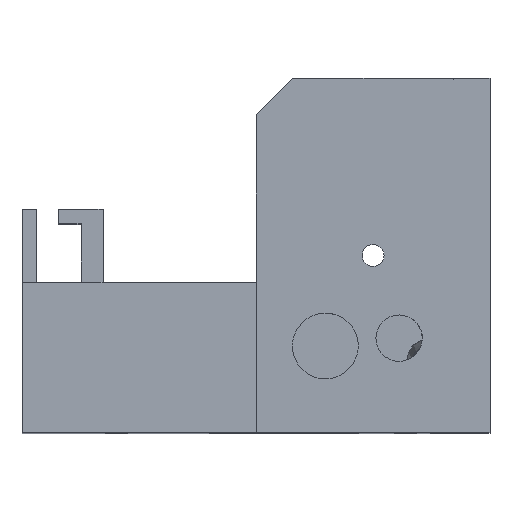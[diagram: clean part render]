
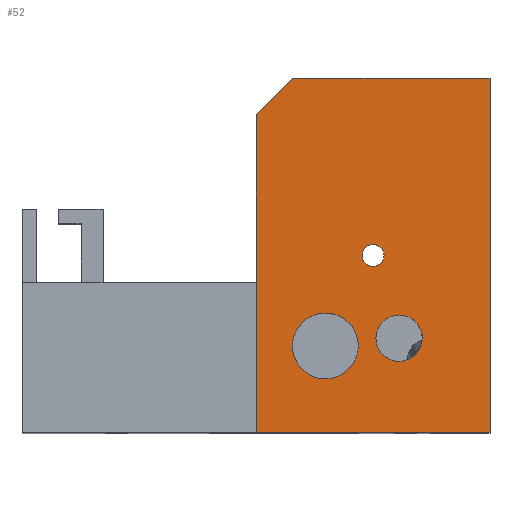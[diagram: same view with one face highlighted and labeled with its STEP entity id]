
A CAD part, top view. The second image highlights one B-rep face of the part: STEP entity #52.
In plain terms, the highlighted planar face has unit normal (0, 0, 1).
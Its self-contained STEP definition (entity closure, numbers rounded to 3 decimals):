
#18=FACE_BOUND('',#188,.T.);
#19=FACE_BOUND('',#189,.T.);
#20=FACE_BOUND('',#190,.T.);
#52=ADVANCED_FACE('',(#118,#18,#19,#20),#1171,.T.);
#118=FACE_OUTER_BOUND('',#187,.T.);
#187=EDGE_LOOP('',(#322,#323,#324,#325,#326,#327));
#188=EDGE_LOOP('',(#328,#329));
#189=EDGE_LOOP('',(#330,#331));
#190=EDGE_LOOP('',(#332,#333));
#322=ORIENTED_EDGE('',*,*,#709,.F.);
#323=ORIENTED_EDGE('',*,*,#659,.F.);
#324=ORIENTED_EDGE('',*,*,#681,.F.);
#325=ORIENTED_EDGE('',*,*,#661,.T.);
#326=ORIENTED_EDGE('',*,*,#703,.T.);
#327=ORIENTED_EDGE('',*,*,#706,.F.);
#328=ORIENTED_EDGE('',*,*,#791,.F.);
#329=ORIENTED_EDGE('',*,*,#723,.F.);
#330=ORIENTED_EDGE('',*,*,#803,.F.);
#331=ORIENTED_EDGE('',*,*,#746,.F.);
#332=ORIENTED_EDGE('',*,*,#806,.F.);
#333=ORIENTED_EDGE('',*,*,#760,.F.);
#659=EDGE_CURVE('',#1024,#1052,#909,.T.);
#661=EDGE_CURVE('',#1026,#1025,#911,.T.);
#681=EDGE_CURVE('',#1026,#1024,#925,.T.);
#703=EDGE_CURVE('',#1025,#1050,#944,.T.);
#706=EDGE_CURVE('',#1054,#1050,#947,.T.);
#709=EDGE_CURVE('',#1052,#1054,#950,.T.);
#723=EDGE_CURVE('',#1064,#1103,#829,.T.);
#746=EDGE_CURVE('',#1079,#1111,#835,.T.);
#760=EDGE_CURVE('',#1084,#1112,#838,.T.);
#791=EDGE_CURVE('',#1103,#1064,#860,.T.);
#803=EDGE_CURVE('',#1111,#1079,#868,.T.);
#806=EDGE_CURVE('',#1112,#1084,#871,.T.);
#829=(
BOUNDED_CURVE()
B_SPLINE_CURVE(2,(#3309,#3310,#3311,#3312,#3313),.UNSPECIFIED.,.F.,.F.)
B_SPLINE_CURVE_WITH_KNOTS((3,2,3),(0.,2.356,4.712),
 .UNSPECIFIED.)
CURVE()
GEOMETRIC_REPRESENTATION_ITEM()
RATIONAL_B_SPLINE_CURVE((1.,0.707,1.,0.707,1.))
REPRESENTATION_ITEM('')
);
#835=(
BOUNDED_CURVE()
B_SPLINE_CURVE(2,(#3460,#3461,#3462,#3463,#3464),.UNSPECIFIED.,.F.,.F.)
B_SPLINE_CURVE_WITH_KNOTS((3,2,3),(0.,4.982,9.963),
 .UNSPECIFIED.)
CURVE()
GEOMETRIC_REPRESENTATION_ITEM()
RATIONAL_B_SPLINE_CURVE((1.,0.707,1.,0.707,1.))
REPRESENTATION_ITEM('')
);
#838=(
BOUNDED_CURVE()
B_SPLINE_CURVE(2,(#3518,#3519,#3520,#3521,#3522),.UNSPECIFIED.,.F.,.F.)
B_SPLINE_CURVE_WITH_KNOTS((3,2,3),(0.,7.854,15.708),
 .UNSPECIFIED.)
CURVE()
GEOMETRIC_REPRESENTATION_ITEM()
RATIONAL_B_SPLINE_CURVE((1.,0.707,1.,0.707,1.))
REPRESENTATION_ITEM('')
);
#860=(
BOUNDED_CURVE()
B_SPLINE_CURVE(2,(#3643,#3644,#3645,#3646,#3647),.UNSPECIFIED.,.F.,.F.)
B_SPLINE_CURVE_WITH_KNOTS((3,2,3),(4.712,7.069,9.425),
 .UNSPECIFIED.)
CURVE()
GEOMETRIC_REPRESENTATION_ITEM()
RATIONAL_B_SPLINE_CURVE((1.,0.707,1.,0.707,1.))
REPRESENTATION_ITEM('')
);
#868=(
BOUNDED_CURVE()
B_SPLINE_CURVE(2,(#3755,#3756,#3757,#3758,#3759),.UNSPECIFIED.,.F.,.F.)
B_SPLINE_CURVE_WITH_KNOTS((3,2,3),(9.963,14.945,19.926),
 .UNSPECIFIED.)
CURVE()
GEOMETRIC_REPRESENTATION_ITEM()
RATIONAL_B_SPLINE_CURVE((1.,0.707,1.,0.707,1.))
REPRESENTATION_ITEM('')
);
#871=(
BOUNDED_CURVE()
B_SPLINE_CURVE(2,(#3767,#3768,#3769,#3770,#3771),.UNSPECIFIED.,.F.,.F.)
B_SPLINE_CURVE_WITH_KNOTS((3,2,3),(15.708,23.562,31.416),
 .UNSPECIFIED.)
CURVE()
GEOMETRIC_REPRESENTATION_ITEM()
RATIONAL_B_SPLINE_CURVE((1.,0.707,1.,0.707,1.))
REPRESENTATION_ITEM('')
);
#909=B_SPLINE_CURVE_WITH_KNOTS('',1,(#3128,#3129),.UNSPECIFIED.,.F.,.F.,
(2,2),(-160.738,-117.357),.UNSPECIFIED.);
#911=B_SPLINE_CURVE_WITH_KNOTS('',1,(#3132,#3133),.UNSPECIFIED.,.F.,.F.,
(2,2),(31.988,80.369),.UNSPECIFIED.);
#925=B_SPLINE_CURVE_WITH_KNOTS('',1,(#3186,#3187,#3188),.UNSPECIFIED.,.F.,
 .F.,(2,1,2),(-31.988,-26.988,0.),.UNSPECIFIED.);
#944=B_SPLINE_CURVE_WITH_KNOTS('',1,(#3242,#3243),.UNSPECIFIED.,.F.,.F.,
(2,2),(80.369,85.369),.UNSPECIFIED.);
#947=B_SPLINE_CURVE_WITH_KNOTS('',1,(#3251,#3252),.UNSPECIFIED.,.F.,.F.,
(2,2),(-107.357,-85.369),.UNSPECIFIED.);
#950=B_SPLINE_CURVE_WITH_KNOTS('',1,(#3257,#3258),.UNSPECIFIED.,.F.,.F.,
(2,2),(0.,7.071),.UNSPECIFIED.);
#1024=VERTEX_POINT('',#2964);
#1025=VERTEX_POINT('',#2965);
#1026=VERTEX_POINT('',#2966);
#1050=VERTEX_POINT('',#2990);
#1052=VERTEX_POINT('',#2992);
#1054=VERTEX_POINT('',#2994);
#1064=VERTEX_POINT('',#3004);
#1079=VERTEX_POINT('',#3019);
#1084=VERTEX_POINT('',#3024);
#1103=VERTEX_POINT('',#3043);
#1111=VERTEX_POINT('',#3051);
#1112=VERTEX_POINT('',#3052);
#1171=PLANE('',#1232);
#1232=AXIS2_PLACEMENT_3D('',#2926,#1276,$);
#1276=DIRECTION('',(0.,0.,1.));
#2926=CARTESIAN_POINT('',(-122.,-135.,479.787));
#2964=CARTESIAN_POINT('',(-153.988,-135.,479.787));
#2965=CARTESIAN_POINT('',(-122.,-86.619,479.787));
#2966=CARTESIAN_POINT('',(-122.,-135.,479.787));
#2990=CARTESIAN_POINT('',(-127.,-86.619,479.787));
#2992=CARTESIAN_POINT('',(-153.988,-91.619,479.787));
#2994=CARTESIAN_POINT('',(-148.988,-86.619,479.787));
#3004=CARTESIAN_POINT('',(-136.495,-110.833,479.787));
#3019=CARTESIAN_POINT('',(-131.478,-123.294,479.787));
#3024=CARTESIAN_POINT('',(-140.016,-123.216,479.787));
#3043=CARTESIAN_POINT('',(-139.495,-110.833,479.787));
#3051=CARTESIAN_POINT('',(-137.388,-120.992,479.787));
#3052=CARTESIAN_POINT('',(-149.016,-123.216,479.787));
#3128=CARTESIAN_POINT('',(-153.988,-135.,479.787));
#3129=CARTESIAN_POINT('',(-153.988,-91.619,479.787));
#3132=CARTESIAN_POINT('',(-122.,-135.,479.787));
#3133=CARTESIAN_POINT('',(-122.,-86.619,479.787));
#3186=CARTESIAN_POINT('',(-122.,-135.,479.787));
#3187=CARTESIAN_POINT('',(-127.,-135.,479.787));
#3188=CARTESIAN_POINT('',(-153.988,-135.,479.787));
#3242=CARTESIAN_POINT('',(-122.,-86.619,479.787));
#3243=CARTESIAN_POINT('',(-127.,-86.619,479.787));
#3251=CARTESIAN_POINT('',(-148.988,-86.619,479.787));
#3252=CARTESIAN_POINT('',(-127.,-86.619,479.787));
#3257=CARTESIAN_POINT('',(-153.988,-91.619,479.787));
#3258=CARTESIAN_POINT('',(-148.988,-86.619,479.787));
#3309=CARTESIAN_POINT('',(-136.495,-110.833,479.787));
#3310=CARTESIAN_POINT('',(-136.495,-109.333,479.787));
#3311=CARTESIAN_POINT('',(-137.995,-109.333,479.787));
#3312=CARTESIAN_POINT('',(-139.495,-109.333,479.787));
#3313=CARTESIAN_POINT('',(-139.495,-110.833,479.787));
#3460=CARTESIAN_POINT('',(-131.478,-123.294,479.787));
#3461=CARTESIAN_POINT('',(-130.327,-120.339,479.787));
#3462=CARTESIAN_POINT('',(-133.282,-119.188,479.787));
#3463=CARTESIAN_POINT('',(-136.237,-118.037,479.787));
#3464=CARTESIAN_POINT('',(-137.388,-120.992,479.787));
#3518=CARTESIAN_POINT('',(-140.016,-123.216,479.787));
#3519=CARTESIAN_POINT('',(-140.016,-118.716,479.787));
#3520=CARTESIAN_POINT('',(-144.516,-118.716,479.787));
#3521=CARTESIAN_POINT('',(-149.016,-118.716,479.787));
#3522=CARTESIAN_POINT('',(-149.016,-123.216,479.787));
#3643=CARTESIAN_POINT('',(-139.495,-110.833,479.787));
#3644=CARTESIAN_POINT('',(-139.495,-112.333,479.787));
#3645=CARTESIAN_POINT('',(-137.995,-112.333,479.787));
#3646=CARTESIAN_POINT('',(-136.495,-112.333,479.787));
#3647=CARTESIAN_POINT('',(-136.495,-110.833,479.787));
#3755=CARTESIAN_POINT('',(-137.388,-120.992,479.787));
#3756=CARTESIAN_POINT('',(-138.539,-123.947,479.787));
#3757=CARTESIAN_POINT('',(-135.584,-125.098,479.787));
#3758=CARTESIAN_POINT('',(-132.629,-126.249,479.787));
#3759=CARTESIAN_POINT('',(-131.478,-123.294,479.787));
#3767=CARTESIAN_POINT('',(-149.016,-123.216,479.787));
#3768=CARTESIAN_POINT('',(-149.016,-127.716,479.787));
#3769=CARTESIAN_POINT('',(-144.516,-127.716,479.787));
#3770=CARTESIAN_POINT('',(-140.016,-127.716,479.787));
#3771=CARTESIAN_POINT('',(-140.016,-123.216,479.787));
